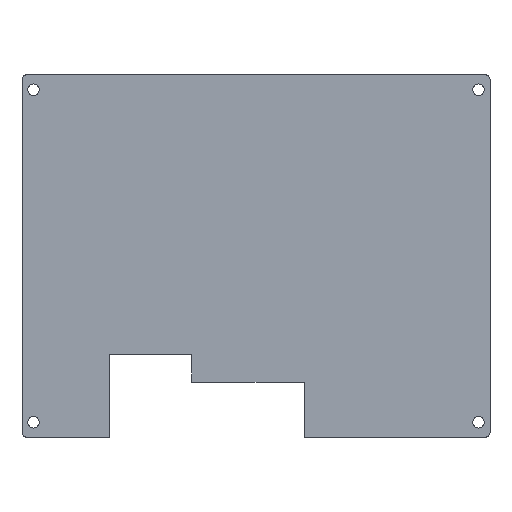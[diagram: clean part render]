
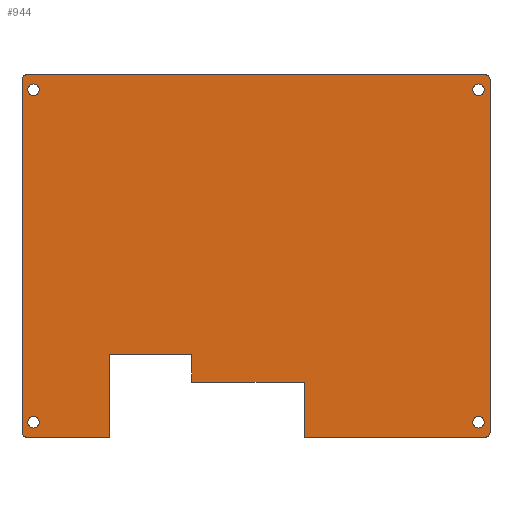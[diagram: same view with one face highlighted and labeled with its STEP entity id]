
A CAD part, top view. The second image highlights one B-rep face of the part: STEP entity #944.
In plain terms, the highlighted planar face has unit normal (0, 0, 1).
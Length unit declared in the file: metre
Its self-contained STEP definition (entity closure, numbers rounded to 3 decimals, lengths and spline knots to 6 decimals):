
#13=CIRCLE('',#1004,0.00125);
#15=CIRCLE('',#1008,0.00125);
#18=CIRCLE('',#1013,0.001);
#19=CIRCLE('',#1014,0.001);
#20=CIRCLE('',#1015,0.001);
#21=CIRCLE('',#1016,0.001);
#22=CIRCLE('',#1017,0.00125);
#23=CIRCLE('',#1018,0.00125);
#108=ORIENTED_EDGE('',*,*,#335,.T.);
#109=ORIENTED_EDGE('',*,*,#355,.T.);
#110=ORIENTED_EDGE('',*,*,#356,.F.);
#111=ORIENTED_EDGE('',*,*,#357,.T.);
#112=ORIENTED_EDGE('',*,*,#358,.F.);
#113=ORIENTED_EDGE('',*,*,#359,.T.);
#114=ORIENTED_EDGE('',*,*,#360,.T.);
#115=ORIENTED_EDGE('',*,*,#361,.F.);
#116=ORIENTED_EDGE('',*,*,#362,.F.);
#117=ORIENTED_EDGE('',*,*,#311,.F.);
#118=ORIENTED_EDGE('',*,*,#327,.F.);
#119=ORIENTED_EDGE('',*,*,#363,.T.);
#120=ORIENTED_EDGE('',*,*,#331,.T.);
#121=ORIENTED_EDGE('',*,*,#364,.T.);
#122=ORIENTED_EDGE('',*,*,#348,.F.);
#123=ORIENTED_EDGE('',*,*,#352,.F.);
#124=ORIENTED_EDGE('',*,*,#365,.F.);
#125=ORIENTED_EDGE('',*,*,#366,.F.);
#311=EDGE_CURVE('',#444,#445,#537,.T.);
#327=EDGE_CURVE('',#457,#444,#553,.T.);
#331=EDGE_CURVE('',#461,#460,#557,.T.);
#335=EDGE_CURVE('',#465,#464,#561,.T.);
#348=EDGE_CURVE('',#475,#475,#13,.T.);
#352=EDGE_CURVE('',#477,#477,#15,.T.);
#355=EDGE_CURVE('',#464,#478,#18,.T.);
#356=EDGE_CURVE('',#479,#478,#575,.T.);
#357=EDGE_CURVE('',#479,#480,#19,.T.);
#358=EDGE_CURVE('',#481,#480,#576,.T.);
#359=EDGE_CURVE('',#481,#482,#577,.T.);
#360=EDGE_CURVE('',#482,#483,#578,.T.);
#361=EDGE_CURVE('',#484,#483,#579,.T.);
#362=EDGE_CURVE('',#445,#484,#580,.T.);
#363=EDGE_CURVE('',#457,#461,#20,.T.);
#364=EDGE_CURVE('',#460,#465,#21,.T.);
#365=EDGE_CURVE('',#485,#485,#22,.T.);
#366=EDGE_CURVE('',#486,#486,#23,.T.);
#444=VERTEX_POINT('',#1326);
#445=VERTEX_POINT('',#1327);
#457=VERTEX_POINT('',#1357);
#460=VERTEX_POINT('',#1365);
#461=VERTEX_POINT('',#1367);
#464=VERTEX_POINT('',#1374);
#465=VERTEX_POINT('',#1376);
#475=VERTEX_POINT('',#1401);
#477=VERTEX_POINT('',#1409);
#478=VERTEX_POINT('',#1415);
#479=VERTEX_POINT('',#1417);
#480=VERTEX_POINT('',#1419);
#481=VERTEX_POINT('',#1421);
#482=VERTEX_POINT('',#1423);
#483=VERTEX_POINT('',#1425);
#484=VERTEX_POINT('',#1427);
#485=VERTEX_POINT('',#1432);
#486=VERTEX_POINT('',#1434);
#537=LINE('',#1325,#655);
#553=LINE('',#1358,#671);
#557=LINE('',#1366,#675);
#561=LINE('',#1375,#679);
#575=LINE('',#1416,#693);
#576=LINE('',#1420,#694);
#577=LINE('',#1422,#695);
#578=LINE('',#1424,#696);
#579=LINE('',#1426,#697);
#580=LINE('',#1428,#698);
#655=VECTOR('',#1073,1.);
#671=VECTOR('',#1095,1.);
#675=VECTOR('',#1101,1.);
#679=VECTOR('',#1107,1.);
#693=VECTOR('',#1147,1.);
#694=VECTOR('',#1150,1.);
#695=VECTOR('',#1151,1.);
#696=VECTOR('',#1152,1.);
#697=VECTOR('',#1153,1.);
#698=VECTOR('',#1154,1.);
#783=EDGE_LOOP('',(#108,#109,#110,#111,#112,#113,#114,#115,#116,#117,#118,
#119,#120,#121));
#784=EDGE_LOOP('',(#122));
#785=EDGE_LOOP('',(#123));
#786=EDGE_LOOP('',(#124));
#787=EDGE_LOOP('',(#125));
#845=FACE_BOUND('',#783,.T.);
#846=FACE_BOUND('',#784,.T.);
#847=FACE_BOUND('',#785,.T.);
#848=FACE_BOUND('',#786,.T.);
#849=FACE_BOUND('',#787,.T.);
#901=PLANE('',#1012);
#944=ADVANCED_FACE('',(#845,#846,#847,#848,#849),#901,.T.);
#1004=AXIS2_PLACEMENT_3D('',#1400,#1125,#1126);
#1008=AXIS2_PLACEMENT_3D('',#1408,#1135,#1136);
#1012=AXIS2_PLACEMENT_3D('',#1413,#1143,#1144);
#1013=AXIS2_PLACEMENT_3D('',#1414,#1145,#1146);
#1014=AXIS2_PLACEMENT_3D('',#1418,#1148,#1149);
#1015=AXIS2_PLACEMENT_3D('',#1429,#1155,#1156);
#1016=AXIS2_PLACEMENT_3D('',#1430,#1157,#1158);
#1017=AXIS2_PLACEMENT_3D('',#1431,#1159,#1160);
#1018=AXIS2_PLACEMENT_3D('',#1433,#1161,#1162);
#1073=DIRECTION('',(0.,1.,0.));
#1095=DIRECTION('',(-1.,0.,0.));
#1101=DIRECTION('',(0.,1.,0.));
#1107=DIRECTION('',(-1.,0.,0.));
#1125=DIRECTION('',(0.,0.,1.));
#1126=DIRECTION('',(1.,0.,0.));
#1135=DIRECTION('',(0.,0.,1.));
#1136=DIRECTION('',(1.,0.,0.));
#1143=DIRECTION('',(0.,0.,1.));
#1144=DIRECTION('',(1.,0.,0.));
#1145=DIRECTION('',(0.,0.,1.));
#1146=DIRECTION('',(1.,0.,0.));
#1147=DIRECTION('',(0.,1.,0.));
#1148=DIRECTION('',(0.,0.,1.));
#1149=DIRECTION('',(1.,0.,0.));
#1150=DIRECTION('',(-1.,0.,0.));
#1151=DIRECTION('',(0.,1.,0.));
#1152=DIRECTION('',(1.,0.,0.));
#1153=DIRECTION('',(0.,1.,0.));
#1154=DIRECTION('',(-1.,0.,0.));
#1155=DIRECTION('',(0.,0.,1.));
#1156=DIRECTION('',(1.,0.,0.));
#1157=DIRECTION('',(0.,0.,1.));
#1158=DIRECTION('',(1.,0.,0.));
#1159=DIRECTION('',(0.,0.,1.));
#1160=DIRECTION('',(1.,0.,0.));
#1161=DIRECTION('',(0.,0.,1.));
#1162=DIRECTION('',(1.,0.,0.));
#1325=CARTESIAN_POINT('',(0.0105,-0.035,0.));
#1326=CARTESIAN_POINT('',(0.0105,-0.0395,0.));
#1327=CARTESIAN_POINT('',(0.0105,-0.0275,0.));
#1357=CARTESIAN_POINT('',(0.05,-0.0395,0.));
#1358=CARTESIAN_POINT('',(0.043,-0.0395,0.));
#1365=CARTESIAN_POINT('',(0.051,0.0385,0.));
#1366=CARTESIAN_POINT('',(0.051,0.,0.));
#1367=CARTESIAN_POINT('',(0.051,-0.0385,0.));
#1374=CARTESIAN_POINT('',(-0.05,0.0395,0.));
#1375=CARTESIAN_POINT('',(0.0455,0.0395,0.));
#1376=CARTESIAN_POINT('',(0.05,0.0395,0.));
#1400=CARTESIAN_POINT('',(0.0485,-0.03625,0.));
#1401=CARTESIAN_POINT('',(0.04975,-0.03625,0.));
#1408=CARTESIAN_POINT('',(0.0485,0.03625,0.));
#1409=CARTESIAN_POINT('',(0.04975,0.03625,0.));
#1413=CARTESIAN_POINT('',(0.,0.,0.));
#1414=CARTESIAN_POINT('',(-0.05,0.0385,0.));
#1415=CARTESIAN_POINT('',(-0.051,0.0385,0.));
#1416=CARTESIAN_POINT('',(-0.051,0.,0.));
#1417=CARTESIAN_POINT('',(-0.051,-0.0385,0.));
#1418=CARTESIAN_POINT('',(-0.05,-0.0385,0.));
#1419=CARTESIAN_POINT('',(-0.05,-0.0395,0.));
#1420=CARTESIAN_POINT('',(-0.043,-0.0395,0.));
#1421=CARTESIAN_POINT('',(-0.032,-0.0395,0.));
#1422=CARTESIAN_POINT('',(-0.032,-0.035,0.));
#1423=CARTESIAN_POINT('',(-0.032,-0.0215,0.));
#1424=CARTESIAN_POINT('',(-0.023,-0.0215,0.));
#1425=CARTESIAN_POINT('',(-0.014,-0.0215,0.));
#1426=CARTESIAN_POINT('',(-0.014,-0.0245,0.));
#1427=CARTESIAN_POINT('',(-0.014,-0.0275,0.));
#1428=CARTESIAN_POINT('',(-0.01125,-0.0275,0.));
#1429=CARTESIAN_POINT('',(0.05,-0.0385,0.));
#1430=CARTESIAN_POINT('',(0.05,0.0385,0.));
#1431=CARTESIAN_POINT('',(-0.0485,0.03625,0.));
#1432=CARTESIAN_POINT('',(-0.04725,0.03625,0.));
#1433=CARTESIAN_POINT('',(-0.0485,-0.03625,0.));
#1434=CARTESIAN_POINT('',(-0.04725,-0.03625,0.));
